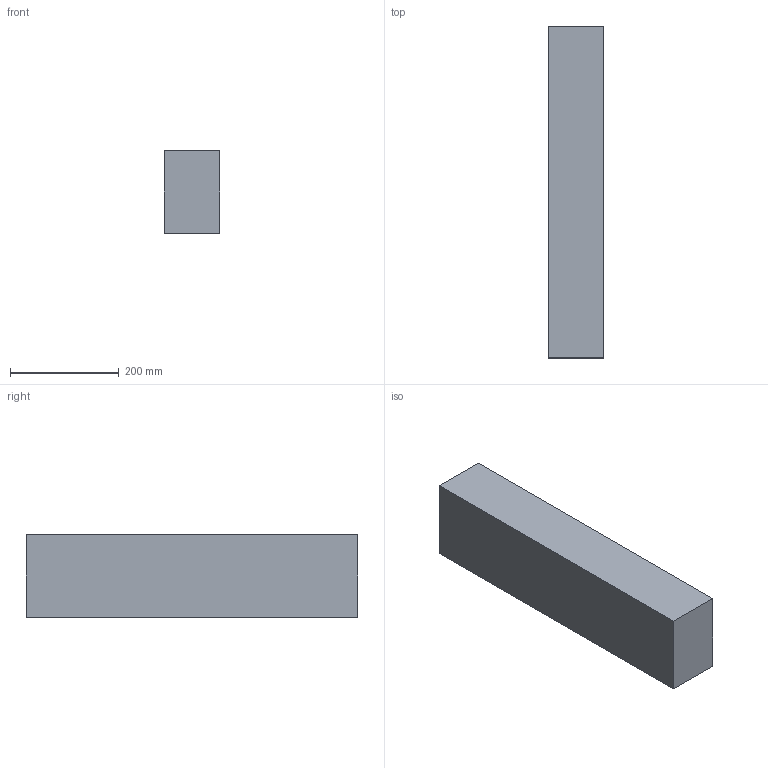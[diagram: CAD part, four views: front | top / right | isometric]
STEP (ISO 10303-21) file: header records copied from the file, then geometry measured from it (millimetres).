
FILE_DESCRIPTION(/* description */ (''),/* implementation_level */ '2;1');
FILE_NAME(/* name */ '4x6x24',/* time_stamp */ '2024-09-20T11:45:19-05:00',/* author */ (''),/* organization */ (''),/* preprocessor_version */ 'ST-DEVELOPER v19.2',/* originating_system */ 'Rhino 8.5',/* authorisation */ '');
FILE_SCHEMA (('CONFIG_CONTROL_DESIGN'));
Length unit declared in the file: inch
Products named in the file (1): Document
Bounding box: 101.6 x 609.6 x 152.4 mm (x, y, z)
Volume: 9438948.9 mm3; surface area: 340644.5 mm2
Topology: 1 solids, 1 shells, 6 faces, 12 edges, 8 vertices
Faces by surface type: plane 6
Entity records: 226 total; most frequent: CARTESIAN_POINT 40, ORIENTED_EDGE 24, EDGE_CURVE 12, B_SPLINE_CURVE_WITH_KNOTS 12, DIRECTION 10, VERTEX_POINT 8, AXIS2_PLACEMENT_3D 8, ORGANIZATION 7
